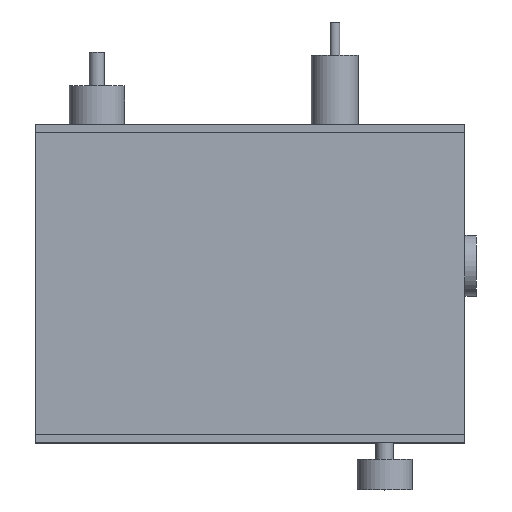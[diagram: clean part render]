
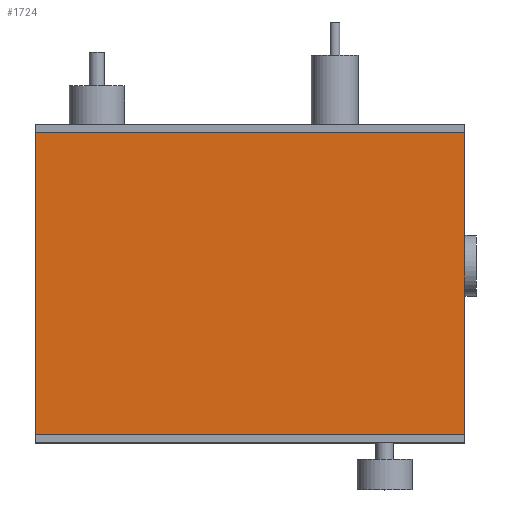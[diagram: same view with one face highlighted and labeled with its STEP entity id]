
A CAD part, top view. The second image highlights one B-rep face of the part: STEP entity #1724.
In plain terms, the highlighted planar face has unit normal (0, 0, 1).
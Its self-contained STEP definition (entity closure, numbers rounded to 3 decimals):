
#97 = VERTEX_POINT('',#98);
#98 = CARTESIAN_POINT('',(0.,3.,100.));
#105 = PLANE('',#106);
#106 = AXIS2_PLACEMENT_3D('',#107,#108,#109);
#107 = CARTESIAN_POINT('',(0.,3.,0.));
#108 = DIRECTION('',(1.,0.,0.));
#109 = DIRECTION('',(0.,0.,1.));
#117 = PLANE('',#118);
#118 = AXIS2_PLACEMENT_3D('',#119,#120,#121);
#119 = CARTESIAN_POINT('',(0.,3.,0.));
#120 = DIRECTION('',(0.,1.,0.));
#121 = DIRECTION('',(0.,0.,1.));
#158 = VERTEX_POINT('',#159);
#159 = CARTESIAN_POINT('',(0.,112.,100.));
#173 = PLANE('',#174);
#174 = AXIS2_PLACEMENT_3D('',#175,#176,#177);
#175 = CARTESIAN_POINT('',(0.,112.,0.));
#176 = DIRECTION('',(0.,1.,0.));
#177 = DIRECTION('',(0.,0.,1.));
#185 = EDGE_CURVE('',#97,#158,#186,.T.);
#186 = SURFACE_CURVE('',#187,(#191,#198),.PCURVE_S1.);
#187 = LINE('',#188,#189);
#188 = CARTESIAN_POINT('',(0.,3.,100.));
#189 = VECTOR('',#190,1.);
#190 = DIRECTION('',(0.,1.,0.));
#191 = PCURVE('',#105,#192);
#192 = DEFINITIONAL_REPRESENTATION('',(#193),#197);
#193 = LINE('',#194,#195);
#194 = CARTESIAN_POINT('',(100.,0.));
#195 = VECTOR('',#196,1.);
#196 = DIRECTION('',(0.,-1.));
#197 = ( GEOMETRIC_REPRESENTATION_CONTEXT(2) 
PARAMETRIC_REPRESENTATION_CONTEXT() REPRESENTATION_CONTEXT('2D SPACE',''
  ) );
#198 = PCURVE('',#199,#204);
#199 = PLANE('',#200);
#200 = AXIS2_PLACEMENT_3D('',#201,#202,#203);
#201 = CARTESIAN_POINT('',(0.,3.,100.));
#202 = DIRECTION('',(0.,0.,1.));
#203 = DIRECTION('',(1.,0.,0.));
#204 = DEFINITIONAL_REPRESENTATION('',(#205),#209);
#205 = LINE('',#206,#207);
#206 = CARTESIAN_POINT('',(0.,0.));
#207 = VECTOR('',#208,1.);
#208 = DIRECTION('',(0.,1.));
#209 = ( GEOMETRIC_REPRESENTATION_CONTEXT(2) 
PARAMETRIC_REPRESENTATION_CONTEXT() REPRESENTATION_CONTEXT('2D SPACE',''
  ) );
#1570 = EDGE_CURVE('',#97,#1571,#1573,.T.);
#1571 = VERTEX_POINT('',#1572);
#1572 = CARTESIAN_POINT('',(155.,3.,100.));
#1573 = SURFACE_CURVE('',#1574,(#1578,#1585),.PCURVE_S1.);
#1574 = LINE('',#1575,#1576);
#1575 = CARTESIAN_POINT('',(0.,3.,100.));
#1576 = VECTOR('',#1577,1.);
#1577 = DIRECTION('',(1.,0.,0.));
#1578 = PCURVE('',#117,#1579);
#1579 = DEFINITIONAL_REPRESENTATION('',(#1580),#1584);
#1580 = LINE('',#1581,#1582);
#1581 = CARTESIAN_POINT('',(100.,0.));
#1582 = VECTOR('',#1583,1.);
#1583 = DIRECTION('',(0.,1.));
#1584 = ( GEOMETRIC_REPRESENTATION_CONTEXT(2) 
PARAMETRIC_REPRESENTATION_CONTEXT() REPRESENTATION_CONTEXT('2D SPACE',''
  ) );
#1585 = PCURVE('',#199,#1586);
#1586 = DEFINITIONAL_REPRESENTATION('',(#1587),#1591);
#1587 = LINE('',#1588,#1589);
#1588 = CARTESIAN_POINT('',(0.,0.));
#1589 = VECTOR('',#1590,1.);
#1590 = DIRECTION('',(1.,0.));
#1591 = ( GEOMETRIC_REPRESENTATION_CONTEXT(2) 
PARAMETRIC_REPRESENTATION_CONTEXT() REPRESENTATION_CONTEXT('2D SPACE',''
  ) );
#1607 = PLANE('',#1608);
#1608 = AXIS2_PLACEMENT_3D('',#1609,#1610,#1611);
#1609 = CARTESIAN_POINT('',(155.,3.,0.));
#1610 = DIRECTION('',(1.,0.,0.));
#1611 = DIRECTION('',(0.,0.,1.));
#1724 = ADVANCED_FACE('',(#1725),#199,.T.);
#1725 = FACE_BOUND('',#1726,.T.);
#1726 = EDGE_LOOP('',(#1727,#1728,#1729,#1752));
#1727 = ORIENTED_EDGE('',*,*,#185,.F.);
#1728 = ORIENTED_EDGE('',*,*,#1570,.T.);
#1729 = ORIENTED_EDGE('',*,*,#1730,.T.);
#1730 = EDGE_CURVE('',#1571,#1731,#1733,.T.);
#1731 = VERTEX_POINT('',#1732);
#1732 = CARTESIAN_POINT('',(155.,112.,100.));
#1733 = SURFACE_CURVE('',#1734,(#1738,#1745),.PCURVE_S1.);
#1734 = LINE('',#1735,#1736);
#1735 = CARTESIAN_POINT('',(155.,3.,100.));
#1736 = VECTOR('',#1737,1.);
#1737 = DIRECTION('',(0.,1.,0.));
#1738 = PCURVE('',#199,#1739);
#1739 = DEFINITIONAL_REPRESENTATION('',(#1740),#1744);
#1740 = LINE('',#1741,#1742);
#1741 = CARTESIAN_POINT('',(155.,0.));
#1742 = VECTOR('',#1743,1.);
#1743 = DIRECTION('',(0.,1.));
#1744 = ( GEOMETRIC_REPRESENTATION_CONTEXT(2) 
PARAMETRIC_REPRESENTATION_CONTEXT() REPRESENTATION_CONTEXT('2D SPACE',''
  ) );
#1745 = PCURVE('',#1607,#1746);
#1746 = DEFINITIONAL_REPRESENTATION('',(#1747),#1751);
#1747 = LINE('',#1748,#1749);
#1748 = CARTESIAN_POINT('',(100.,0.));
#1749 = VECTOR('',#1750,1.);
#1750 = DIRECTION('',(0.,-1.));
#1751 = ( GEOMETRIC_REPRESENTATION_CONTEXT(2) 
PARAMETRIC_REPRESENTATION_CONTEXT() REPRESENTATION_CONTEXT('2D SPACE',''
  ) );
#1752 = ORIENTED_EDGE('',*,*,#1753,.F.);
#1753 = EDGE_CURVE('',#158,#1731,#1754,.T.);
#1754 = SURFACE_CURVE('',#1755,(#1759,#1766),.PCURVE_S1.);
#1755 = LINE('',#1756,#1757);
#1756 = CARTESIAN_POINT('',(0.,112.,100.));
#1757 = VECTOR('',#1758,1.);
#1758 = DIRECTION('',(1.,0.,0.));
#1759 = PCURVE('',#199,#1760);
#1760 = DEFINITIONAL_REPRESENTATION('',(#1761),#1765);
#1761 = LINE('',#1762,#1763);
#1762 = CARTESIAN_POINT('',(0.,109.));
#1763 = VECTOR('',#1764,1.);
#1764 = DIRECTION('',(1.,0.));
#1765 = ( GEOMETRIC_REPRESENTATION_CONTEXT(2) 
PARAMETRIC_REPRESENTATION_CONTEXT() REPRESENTATION_CONTEXT('2D SPACE',''
  ) );
#1766 = PCURVE('',#173,#1767);
#1767 = DEFINITIONAL_REPRESENTATION('',(#1768),#1772);
#1768 = LINE('',#1769,#1770);
#1769 = CARTESIAN_POINT('',(100.,0.));
#1770 = VECTOR('',#1771,1.);
#1771 = DIRECTION('',(0.,1.));
#1772 = ( GEOMETRIC_REPRESENTATION_CONTEXT(2) 
PARAMETRIC_REPRESENTATION_CONTEXT() REPRESENTATION_CONTEXT('2D SPACE',''
  ) );
